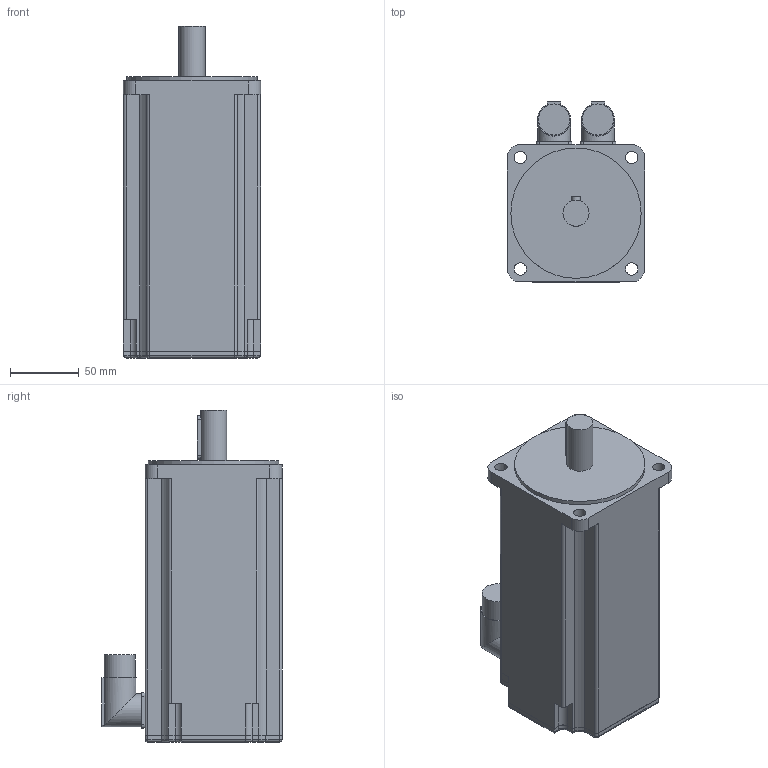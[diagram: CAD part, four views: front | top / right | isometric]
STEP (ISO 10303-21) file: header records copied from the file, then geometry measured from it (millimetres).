
FILE_DESCRIPTION(/* description */ (''),/* implementation_level */ '2;1');
FILE_NAME(/* name */ '\\Lafnas01\disegni\Archivi Lafert\3D\CAD 3D\MODELLI\Assiemi clienti\Serad\Modelli 3D Serad\B63Q\Resolver\Res With Brake\B6306Qxx6B052033.ipt.stp',/* time_stamp */ '2015-09-07T10:51:18+02:00',/* author */ ('Pastrello Ylenia'),/* organization */ (''),/* preprocessor_version */ 'ST-DEVELOPER v15.6',/* originating_system */ 'Autodesk Inventor 2015',/* authorisation */ '');
FILE_SCHEMA (('AUTOMOTIVE_DESIGN { 1 0 10303 214 3 1 1 }'));
Length unit declared in the file: millimetre
Products named in the file (1): B6306Qxx6B052033
Bounding box: 100 x 131.5 x 242 mm (x, y, z)
Volume: 1878633.6 mm3; surface area: 109572.3 mm2
Topology: 1 solids, 1 shells, 162 faces, 420 edges, 270 vertices
Faces by surface type: plane 76, cylinder 74, torus 8, sphere 4
Full cylindrical faces by diameter (mm): 9 x4, 19 x1, 22.7 x2, 24 x2, 95 x1
Entity records: 5018 total; most frequent: CARTESIAN_POINT 973, DIRECTION 864, ORIENTED_EDGE 812, EDGE_CURVE 406, AXIS2_PLACEMENT_3D 305, VERTEX_POINT 266, LINE 254, VECTOR 254
